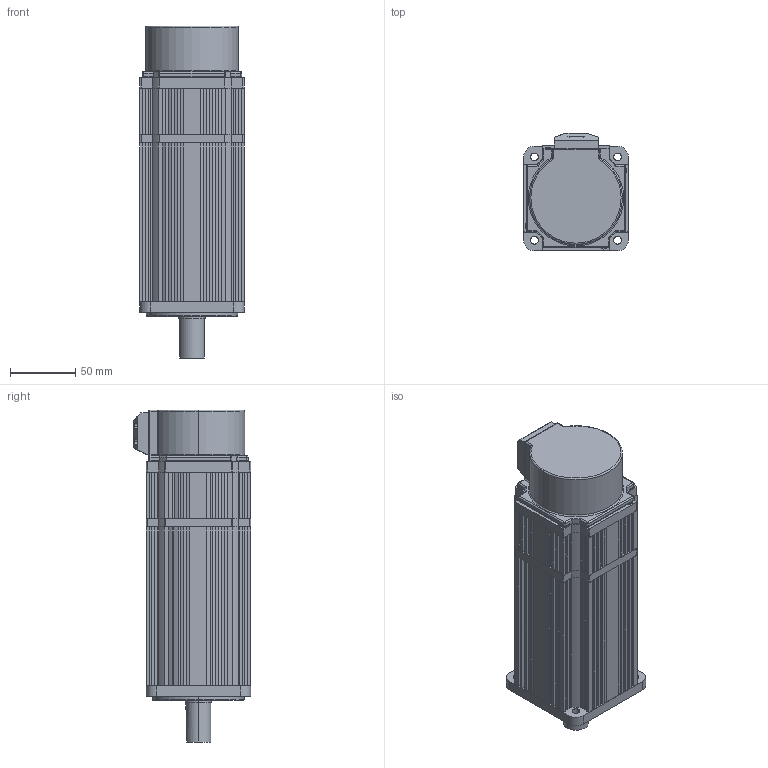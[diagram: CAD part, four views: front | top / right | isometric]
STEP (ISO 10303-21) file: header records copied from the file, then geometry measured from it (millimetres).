
FILE_DESCRIPTION (( 'STEP AP203' ), '1' );
FILE_NAME ('80-3.5N.M抱闸装配.STEP', '2019-04-19T08:29:59', ( '微软用户' ), ( '微软中国' ), 'SwSTEP 2.0', 'SolidWorks 2016', '' );
FILE_SCHEMA (( 'CONFIG_CONTROL_DESIGN' ));
Length unit declared in the file: millimetre
Products named in the file (11): 80ヶ裔; 6004; 80晤鎢ん欶; 80 綴裔; 80 綴裔ㄗ惕掅ㄘ; 80堤盄揤啣ㄗ奻ㄘ; 80 3.5N.M粣; 80堤盄揤啣ㄗ狟ㄘ; 80儂褲 ㄗ惕掅ㄘ; 80-3.5N.M惕掅蚾饜; 80儂褲
Assembly tree (10 placements, depth 2):
  80-3.5N.M惕掅蚾饜
    80 3.5N.M粣
    80儂褲 ㄗ惕掅ㄘ
    80儂褲
    80ヶ裔
    6004
    80晤鎢ん欶
    80 綴裔
    80 綴裔ㄗ惕掅ㄘ
    80堤盄揤啣ㄗ奻ㄘ
    80堤盄揤啣ㄗ狟ㄘ
Bounding box: 80 x 89.7 x 254 mm (x, y, z)
Volume: 447064.4 mm3; surface area: 246625.7 mm2
Topology: 10 solids, 11 shells, 1248 faces, 3264 edges, 2049 vertices
Faces by surface type: plane 546, cylinder 473, torus 159, cone 44, sphere 22, bspline 4
Entity records: 40264 total; most frequent: CARTESIAN_POINT 7717, DIRECTION 6858, ORIENTED_EDGE 6434, EDGE_CURVE 3217, AXIS2_PLACEMENT_3D 2489, VERTEX_POINT 2049, VECTOR 1880, LINE 1880
